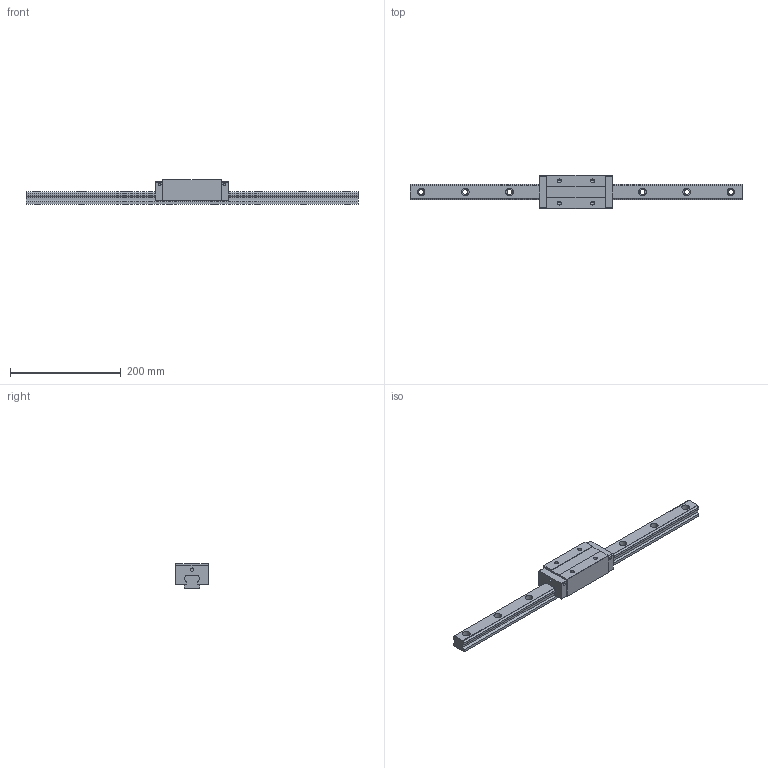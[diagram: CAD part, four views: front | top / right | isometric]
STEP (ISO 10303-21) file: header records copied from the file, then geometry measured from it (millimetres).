
FILE_DESCRIPTION (( 'STEP AP203' ), '1' );
FILE_NAME ('TRH30VE-XN.STEP', '2024-05-17T06:27:10', ( '' ), ( '' ), 'SwSTEP 2.0', 'SolidWorks 2022', '' );
FILE_SCHEMA (( 'CONFIG_CONTROL_DESIGN' ));
Length unit declared in the file: millimetre
Products named in the file (1): TRH30VE-XN
Bounding box: 600 x 60 x 45 mm (x, y, z)
Volume: 560770.5 mm3; surface area: 105639.2 mm2
Topology: 2 solids, 2 shells, 186 faces, 488 edges, 316 vertices
Faces by surface type: cylinder 88, plane 82, cone 16
Entity records: 5819 total; most frequent: DIRECTION 1038, CARTESIAN_POINT 983, ORIENTED_EDGE 960, EDGE_CURVE 480, AXIS2_PLACEMENT_3D 371, VERTEX_POINT 316, VECTOR 296, LINE 296
